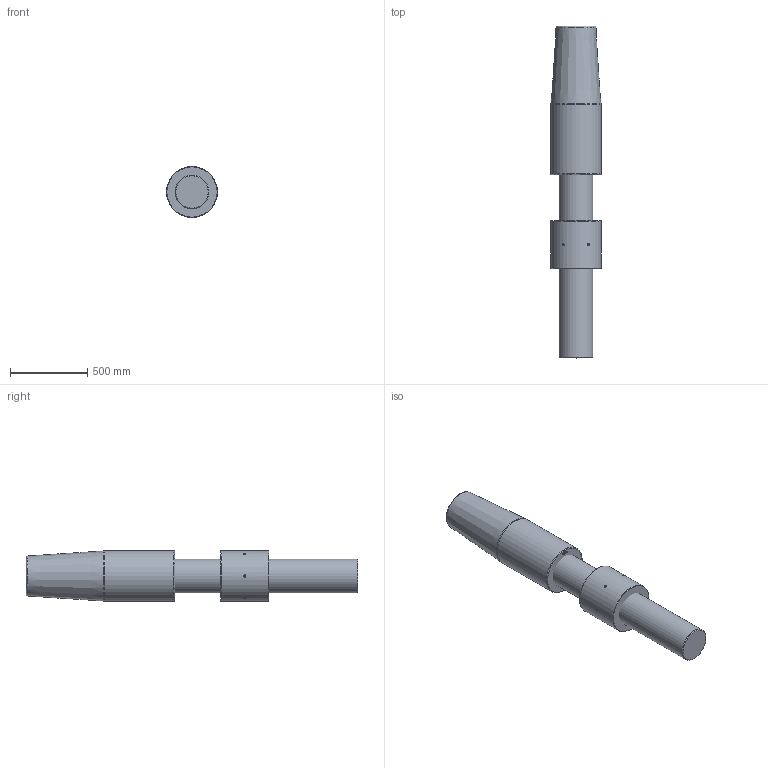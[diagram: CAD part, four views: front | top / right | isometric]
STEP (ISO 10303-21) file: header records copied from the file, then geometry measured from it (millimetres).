
FILE_DESCRIPTION(/* description */ (''),/* implementation_level */ '2;1');
FILE_NAME(/* name */ 'C:\Users\ranca\Desktop\CYM\ARRANGEMENT\CYM112 52 061 0.stp',/* time_stamp */ '2021-04-23T20:43:11+02:00',/* author */ ('ranca'),/* organization */ (''),/* preprocessor_version */ 'ST-DEVELOPER v16.13',/* originating_system */ 'Autodesk Inventor 2018',/* authorisation */ '');
FILE_SCHEMA (('AUTOMOTIVE_DESIGN { 1 0 10303 214 3 1 1 }'));
Length unit declared in the file: millimetre
Products named in the file (4): CYM112-52-061-0; CYM012-52-061-0_ROD; CYC112 52 065 0_CYL SOK_RH; CYM112-41-051-0
Assembly tree (3 placements, depth 2):
  CYM112-52-061-0
    CYM012-52-061-0_ROD
    CYC112 52 065 0_CYL SOK_RH
    CYM112-41-051-0
Bounding box: 330 x 2154 x 330 mm (x, y, z)
Volume: 155419321.8 mm3; surface area: 2665387.3 mm2
Topology: 3 solids, 3 shells, 496 faces, 1345 edges, 894 vertices
Faces by surface type: plane 259, bspline 215, cone 11, cylinder 9, torus 2
Full cylindrical faces by diameter (mm): 15 x6, 220 x1, 325 x1, 330 x1
Entity records: 16750 total; most frequent: CARTESIAN_POINT 5727, ORIENTED_EDGE 2632, DIRECTION 1473, EDGE_CURVE 1316, VERTEX_POINT 888, LINE 853, VECTOR 853, EDGE_LOOP 558
